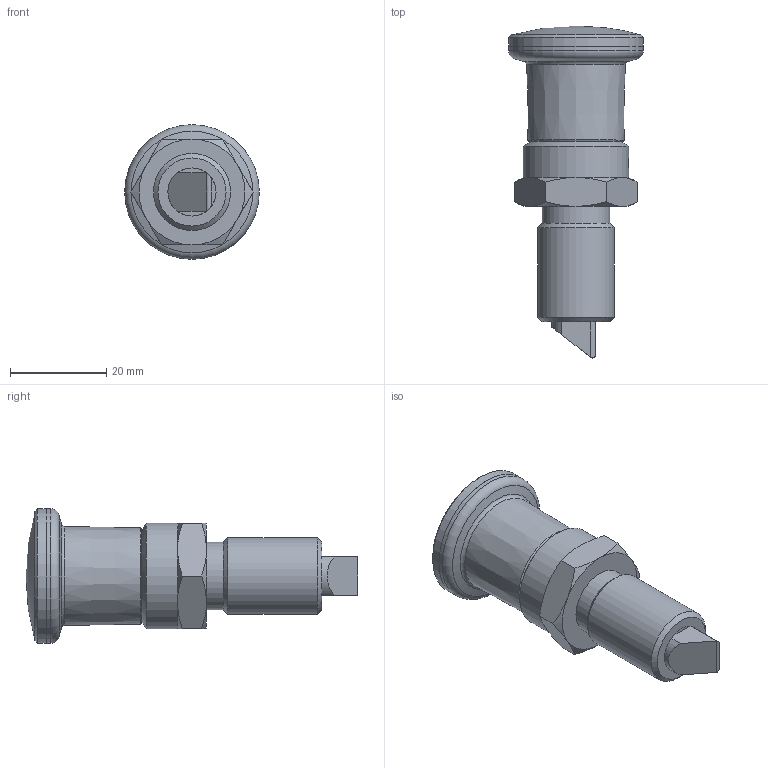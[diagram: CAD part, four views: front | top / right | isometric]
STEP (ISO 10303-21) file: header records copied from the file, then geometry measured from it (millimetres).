
FILE_DESCRIPTION(/* description */ ('STEP AP214'),/* implementation_level */ '2;1');
FILE_NAME(/* name */ 'Indexing Plunger_ Stainless Steel GN 824-8-7_5-C-NI (deactivated)',/* time_stamp */ '2024-11-28T10:49:45+01:00',/* author */ ('License CC BY-ND 4.0'),/* organization */ ('CADENAS'),/* preprocessor_version */ 'ST-DEVELOPER v19.3',/* originating_system */ 'PARTsolutions',/* authorisation */ ' ');
FILE_SCHEMA (('AUTOMOTIVE_DESIGN {1 0 10303 214 3 1 1}'));
Length unit declared in the file: millimetre
Products named in the file (3): Indexing Plunger, Stainless Steel GN 824-8-7,5-C-NI (deactivated); Indexing Plunger, Stainless Steel GN 824-8-7,5-C-NI (closed)-1; Indexing Plunger, Stainless Steel GN 824-8-7,5-C-NI (closed)-2
Assembly tree (2 placements, depth 2):
  Indexing Plunger, Stainless Steel GN 824-8-7,5-C-NI (deactivated)
    Indexing Plunger, Stainless Steel GN 824-8-7,5-C-NI (closed)-1
    Indexing Plunger, Stainless Steel GN 824-8-7,5-C-NI (closed)-2
Bounding box: 28 x 69 x 28 mm (x, y, z)
Volume: 17838.3 mm3; surface area: 10224.5 mm2
Topology: 2 solids, 2 shells, 83 faces, 179 edges, 111 vertices
Faces by surface type: plane 40, cone 21, cylinder 18, torus 3, sphere 1
Full cylindrical faces by diameter (mm): 3.3 x1, 7.5 x2, 10 x2, 10.5 x1, 11 x2, 14 x1, 16 x1, 22 x1, 27.98 x1, 28 x1
Entity records: 2753 total; most frequent: CARTESIAN_POINT 458, DIRECTION 348, ORIENTED_EDGE 294, AXIS2_PLACEMENT_3D 149, EDGE_CURVE 147, EDGE_LOOP 122, FACE_BOUND 122, VERTEX_POINT 105
